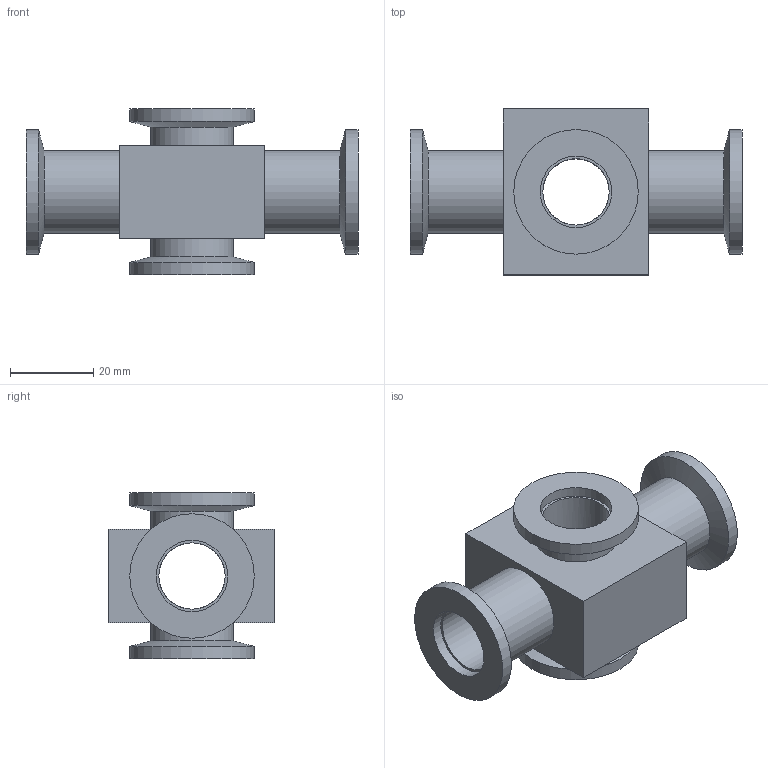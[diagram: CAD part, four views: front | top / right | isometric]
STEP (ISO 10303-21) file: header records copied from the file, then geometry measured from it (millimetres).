
FILE_DESCRIPTION( ( 'Unknown' ), '1' );
FILE_NAME( 'X:/Daten ( aktueller Bestand )/Projekte und Zeichnungen/Solid Edge/1 Kleinflanschverzweigungen/POM/Kreuzstück POM/1012P.stp', 'Unknown', ( 'Unknown' ), ( 'Unknown' ), 'XStep 1.0', 'Unknown', ' ' );
FILE_SCHEMA( ( 'automotive_design' ) );
Length unit declared in the file: millimetre
Products named in the file (1): 1
Bounding box: 80 x 40 x 40 mm (x, y, z)
Volume: 35119.8 mm3; surface area: 17580.6 mm2
Topology: 1 solids, 1 shells, 34 faces, 69 edges, 43 vertices
Faces by surface type: cylinder 16, plane 14, cone 4
Full cylindrical faces by diameter (mm): 16 x4, 17.2 x4, 20 x4, 30 x4
Entity records: 1048 total; most frequent: DIRECTION 146, CARTESIAN_POINT 117, ORIENTED_EDGE 88, AXIS2_PLACEMENT_3D 67, EDGE_LOOP 66, FACE_OUTER_BOUND 50, EDGE_CURVE 44, VERTEX_POINT 38
